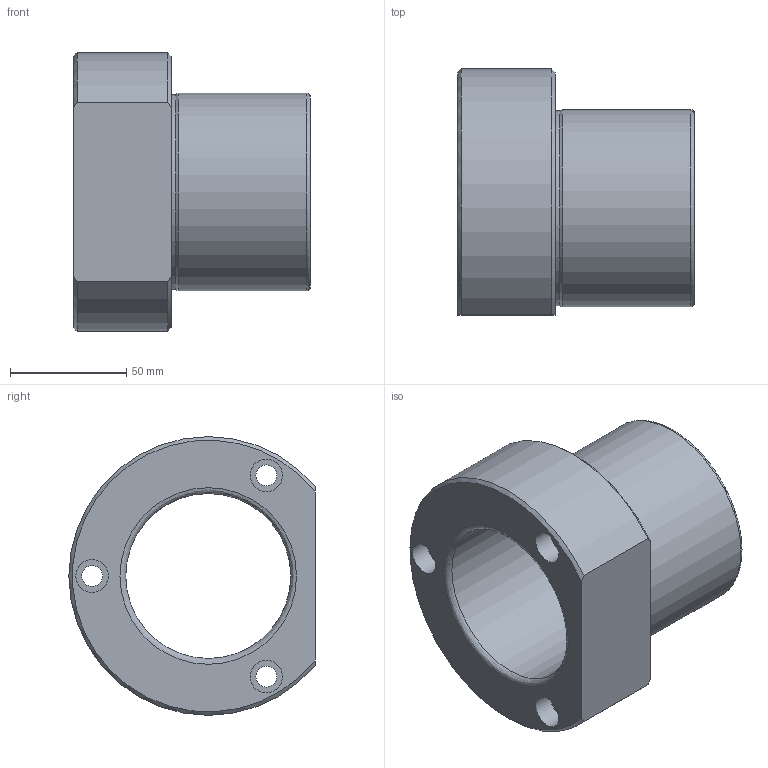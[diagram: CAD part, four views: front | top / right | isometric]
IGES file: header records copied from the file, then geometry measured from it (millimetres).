
Global section: file name: B5AG63-4.ipt; native system: Autodesk Inventor 2021; preprocessor: unknown; author: SM; date: 20211220.141115; units: millimetre
Bounding box: 102 x 106 x 120 mm (x, y, z)
Volume: 368672 mm3; surface area: 70239.2 mm2
Topology: 1 solids, 1 shells, 23 faces, 60 edges, 43 vertices
Faces by surface type: revolution 10, plane 7, cylinder 3, cone 3
Full cylindrical faces by diameter (mm): 84 x1, 85 x1
